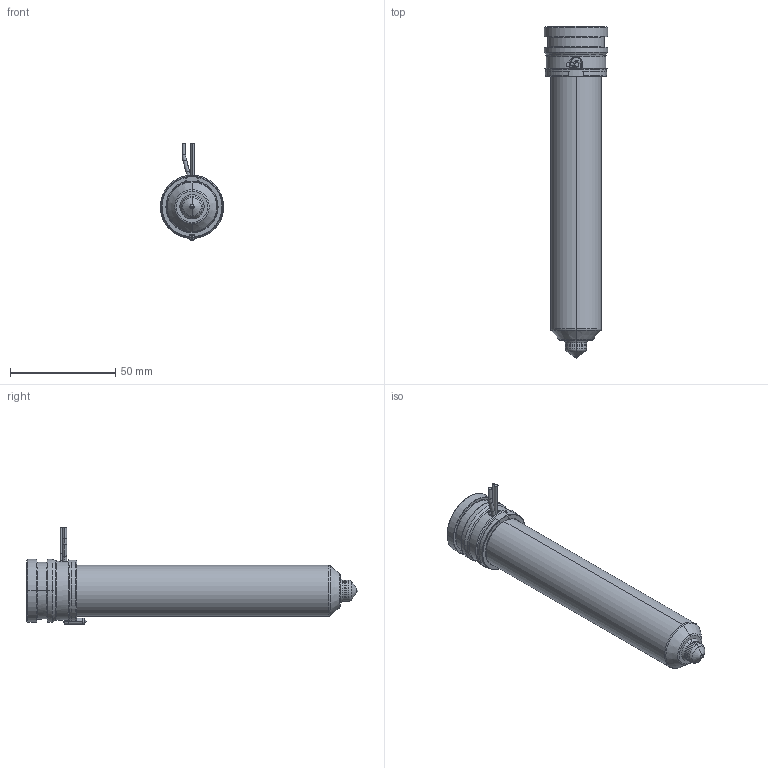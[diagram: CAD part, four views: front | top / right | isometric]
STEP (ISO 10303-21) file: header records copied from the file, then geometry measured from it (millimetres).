
FILE_DESCRIPTION((''),'2;1');
FILE_NAME('MPN-10-29-TX10-136-A','2026-02-11T11:17:31',('UVRWS'),('Thermoplay S.p.A.'),'CREO PARAMETRIC BY PTC INC, 2023494','CREO PARAMETRIC BY PTC INC, 2023494','');
FILE_SCHEMA(('CONFIG_CONTROL_DESIGN','SHAPE_APPEARANCE_LAYERS_GROUPS'));
Length unit declared in the file: millimetre
Products named in the file (1): MPN-10-29-TX10-136-A
Bounding box: 30 x 157.5 x 46 mm (x, y, z)
Volume: 48996.7 mm3; surface area: 49270.2 mm2
Topology: 2 solids, 3 shells, 551 faces, 1455 edges, 899 vertices
Faces by surface type: cylinder 180, plane 143, bspline 79, torus 68, cone 66, sphere 11, extrusion 4
Entity records: 31347 total; most frequent: CARTESIAN_POINT 14991, ORIENTED_EDGE 2894, DIRECTION 2641, EDGE_CURVE 1447, AXIS2_PLACEMENT_3D 1045, VERTEX_POINT 899, EDGE_LOOP 580, CIRCLE 576
